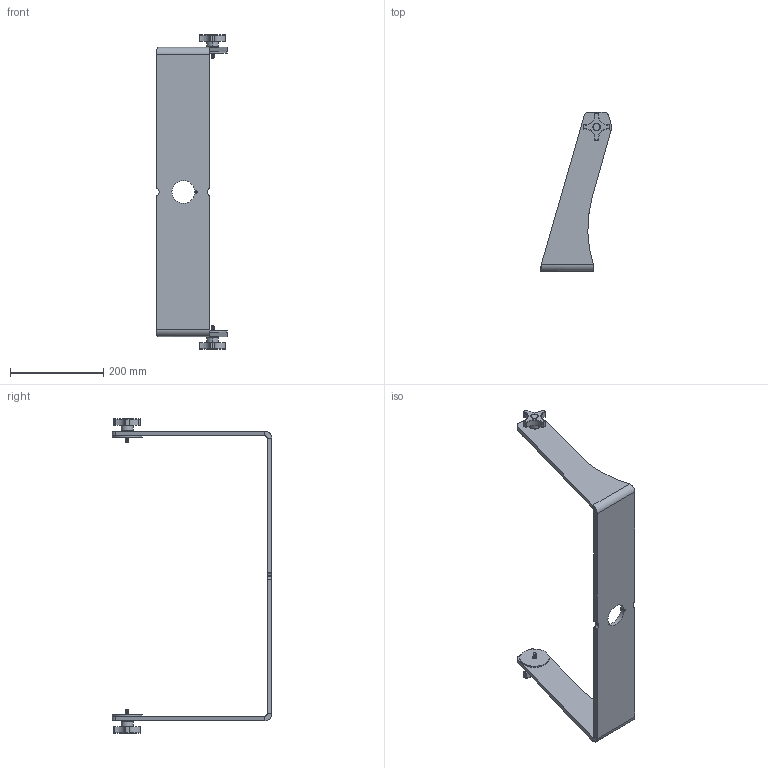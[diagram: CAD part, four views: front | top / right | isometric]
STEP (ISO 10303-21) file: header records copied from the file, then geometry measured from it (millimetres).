
FILE_DESCRIPTION (( 'STEP AP214' ), '1' );
FILE_NAME ('Yoke for 23 inch Universal Mount Monitor, YK23.STEP', '2017-07-18T14:05:19', ( '' ), ( '' ), 'SwSTEP 2.0', 'SolidWorks 2017', '' );
FILE_SCHEMA (( 'AUTOMOTIVE_DESIGN' ));
Length unit declared in the file: inch
Products named in the file (5): Knob, 30053; Rubber Washer, 10177; Bushing, 30500; All Yoke Configurations, YKxx_YK23; Yoke for 23 inch Universal Mount Monitor, YK23
Assembly tree (7 placements, depth 2):
  Yoke for 23 inch Universal Mount Monitor, YK23
    All Yoke Configurations, YKxx_YK23
    Bushing, 30500  x2
    Rubber Washer, 10177  x2
    Knob, 30053  x2
Bounding box: 151.52 x 341.02 x 673.15 mm (x, y, z)
Volume: 1175051.6 mm3; surface area: 289140.5 mm2
Topology: 7 solids, 7 shells, 567 faces, 1225 edges, 664 vertices
Faces by surface type: cylinder 257, cone 176, torus 48, plane 42, sphere 40, bspline 4
Entity records: 11008 total; most frequent: CARTESIAN_POINT 4122, DIRECTION 1480, ORIENTED_EDGE 1334, EDGE_CURVE 667, AXIS2_PLACEMENT_3D 601, VERTEX_POINT 369, EDGE_LOOP 324, FACE_OUTER_BOUND 310
